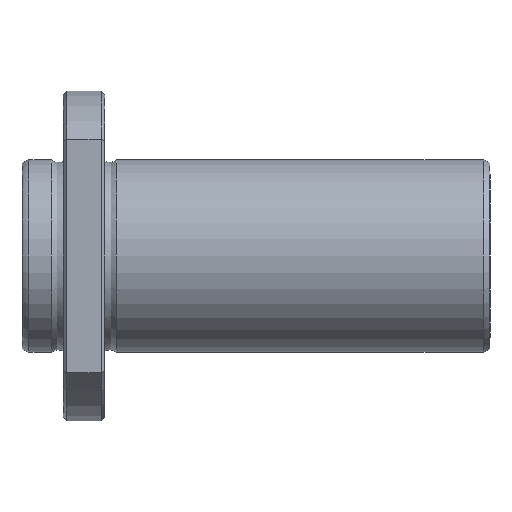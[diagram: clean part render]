
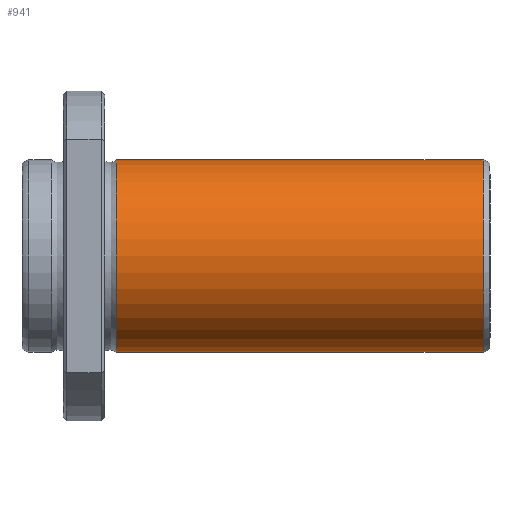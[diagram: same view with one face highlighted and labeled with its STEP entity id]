
A CAD part, front view. The second image highlights one B-rep face of the part: STEP entity #941.
In plain terms, the highlighted cylindrical face has radius 14 mm (diameter 28 mm), a full revolution.
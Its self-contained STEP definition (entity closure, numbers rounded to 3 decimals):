
#907=CARTESIAN_POINT('',(66.999,0.0,14.));
#908=VERTEX_POINT('',#907);
#909=CARTESIAN_POINT('',(66.999,0.0,0.0));
#910=DIRECTION('',(-1.0,0.0,0.0));
#911=DIRECTION('',(0.0,0.0,1.0));
#912=AXIS2_PLACEMENT_3D('',#909,#910,#911);
#913=CIRCLE('',#912,14.);
#914=EDGE_CURVE('',#908,#908,#913,.T.);
#922=CARTESIAN_POINT('',(40.359,0.0,0.0));
#923=DIRECTION('',(-1.0,0.0,0.0));
#924=DIRECTION('',(0.0,0.0,1.0));
#925=AXIS2_PLACEMENT_3D('',#922,#923,#924);
#926=CYLINDRICAL_SURFACE('',#925,14.);
#927=CARTESIAN_POINT('',(13.72,0.0,14.));
#928=VERTEX_POINT('',#927);
#929=CARTESIAN_POINT('',(13.72,0.0,0.0));
#930=DIRECTION('',(-1.0,0.0,0.0));
#931=DIRECTION('',(0.0,0.0,1.0));
#932=AXIS2_PLACEMENT_3D('',#929,#930,#931);
#933=CIRCLE('',#932,14.);
#934=EDGE_CURVE('',#928,#928,#933,.T.);
#935=ORIENTED_EDGE('',*,*,#934,.F.);
#936=EDGE_LOOP('',(#935));
#937=FACE_OUTER_BOUND('',#936,.T.);
#938=ORIENTED_EDGE('',*,*,#914,.T.);
#939=EDGE_LOOP('',(#938));
#940=FACE_BOUND('',#939,.T.);
#941=ADVANCED_FACE('',(#937,#940),#926,.T.);
